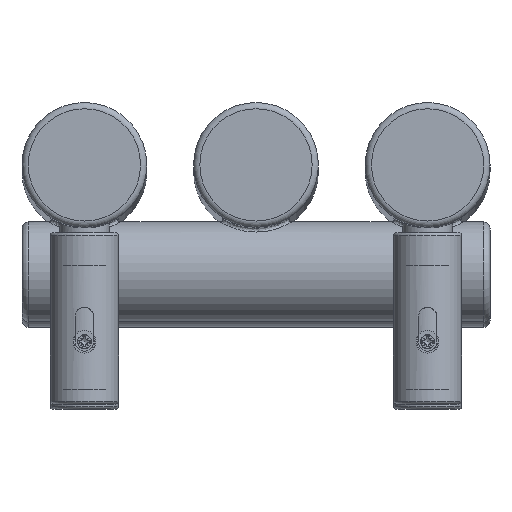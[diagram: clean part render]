
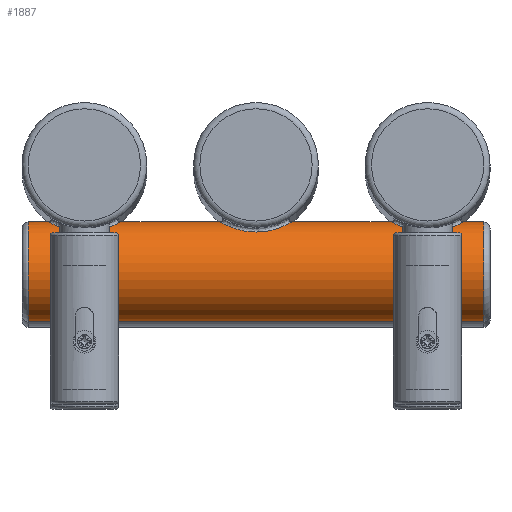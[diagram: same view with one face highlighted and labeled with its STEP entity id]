
A CAD part, top view. The second image highlights one B-rep face of the part: STEP entity #1887.
In plain terms, the highlighted cylindrical face has radius 16 mm (diameter 32 mm), a full revolution.
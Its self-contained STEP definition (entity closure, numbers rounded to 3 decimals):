
#163=FACE_BOUND('',#495,.T.);
#164=FACE_BOUND('',#496,.T.);
#165=FACE_BOUND('',#497,.T.);
#184=LINE('',#3864,#256);
#256=VECTOR('',#2366,16.);
#328=CYLINDRICAL_SURFACE('',#2066,16.);
#361=FACE_OUTER_BOUND('',#494,.T.);
#494=EDGE_LOOP('',(#1345,#1346,#1347,#1348));
#495=EDGE_LOOP('',(#1349));
#496=EDGE_LOOP('',(#1350));
#497=EDGE_LOOP('',(#1351));
#636=B_SPLINE_CURVE_WITH_KNOTS('',3,(#3841,#3842,#3843,#3844,#3845,#3846,
#3847,#3848,#3849,#3850,#3851,#3852,#3853,#3854,#3855,#3856,#3857,#3858,
#3859),.UNSPECIFIED.,.T.,.F.,(4,1,1,1,1,1,1,1,1,1,1,1,1,1,1,1,4),(0.,0.367,
0.733,1.1,1.466,1.711,1.955,
2.199,2.444,2.933,3.177,3.421,
3.666,3.91,4.399,4.765,5.132),
 .UNSPECIFIED.);
#637=B_SPLINE_CURVE_WITH_KNOTS('',3,(#3867,#3868,#3869,#3870,#3871,#3872,
#3873,#3874,#3875,#3876,#3877,#3878,#3879,#3880,#3881,#3882,#3883,#3884,
#3885,#3886,#3887),.UNSPECIFIED.,.T.,.F.,(4,1,1,1,1,1,1,1,1,1,1,1,1,1,1,
1,1,1,4),(0.,0.367,0.733,0.916,1.1,
1.466,1.711,1.955,2.199,2.444,
2.688,2.933,3.177,3.421,3.666,
3.91,4.399,4.765,5.132),
 .UNSPECIFIED.);
#638=B_SPLINE_CURVE_WITH_KNOTS('',3,(#3889,#3890,#3891,#3892,#3893,#3894,
#3895,#3896,#3897,#3898,#3899,#3900,#3901,#3902,#3903,#3904,#3905,#3906,
#3907,#3908,#3909),.UNSPECIFIED.,.T.,.F.,(4,1,1,1,1,1,1,1,1,1,1,1,1,1,1,
1,1,1,4),(0.,0.367,0.733,0.916,1.1,
1.466,1.711,1.955,2.199,2.444,
2.688,2.933,3.177,3.421,3.666,
3.91,4.399,4.765,5.132),
 .UNSPECIFIED.);
#687=CIRCLE('',#2067,16.);
#688=CIRCLE('',#2068,16.);
#837=VERTEX_POINT('',#3839);
#838=VERTEX_POINT('',#3861);
#839=VERTEX_POINT('',#3863);
#840=VERTEX_POINT('',#3866);
#841=VERTEX_POINT('',#3888);
#1041=EDGE_CURVE('',#837,#837,#636,.T.);
#1042=EDGE_CURVE('',#838,#838,#687,.T.);
#1043=EDGE_CURVE('',#838,#839,#184,.T.);
#1044=EDGE_CURVE('',#839,#839,#688,.T.);
#1045=EDGE_CURVE('',#840,#840,#637,.T.);
#1046=EDGE_CURVE('',#841,#841,#638,.T.);
#1345=ORIENTED_EDGE('',*,*,#1042,.F.);
#1346=ORIENTED_EDGE('',*,*,#1043,.T.);
#1347=ORIENTED_EDGE('',*,*,#1044,.F.);
#1348=ORIENTED_EDGE('',*,*,#1043,.F.);
#1349=ORIENTED_EDGE('',*,*,#1045,.F.);
#1350=ORIENTED_EDGE('',*,*,#1046,.F.);
#1351=ORIENTED_EDGE('',*,*,#1041,.F.);
#1887=ADVANCED_FACE('',(#361,#163,#164,#165),#328,.T.);
#2066=AXIS2_PLACEMENT_3D('',#3860,#2362,#2363);
#2067=AXIS2_PLACEMENT_3D('',#3862,#2364,#2365);
#2068=AXIS2_PLACEMENT_3D('',#3865,#2367,#2368);
#2362=DIRECTION('center_axis',(-1.,0.,0.));
#2363=DIRECTION('ref_axis',(0.,0.,1.));
#2364=DIRECTION('center_axis',(-1.,0.,0.));
#2365=DIRECTION('ref_axis',(0.,0.,1.));
#2366=DIRECTION('',(1.,0.,0.));
#2367=DIRECTION('center_axis',(1.,0.,0.));
#2368=DIRECTION('ref_axis',(0.,0.,1.));
#3839=CARTESIAN_POINT('',(-110.,-21.257,1054.676));
#3841=CARTESIAN_POINT('Ctrl Pts',(-110.,-21.257,1054.676));
#3842=CARTESIAN_POINT('Ctrl Pts',(-108.333,-21.257,1054.676));
#3843=CARTESIAN_POINT('Ctrl Pts',(-104.996,-20.861,1054.183));
#3844=CARTESIAN_POINT('Ctrl Pts',(-100.824,-19.321,1051.735));
#3845=CARTESIAN_POINT('Ctrl Pts',(-98.535,-17.944,1047.489));
#3846=CARTESIAN_POINT('Ctrl Pts',(-98.541,-17.949,1043.065));
#3847=CARTESIAN_POINT('Ctrl Pts',(-100.014,-18.832,1039.661));
#3848=CARTESIAN_POINT('Ctrl Pts',(-102.203,-19.862,1037.415));
#3849=CARTESIAN_POINT('Ctrl Pts',(-105.073,-20.765,1035.975));
#3850=CARTESIAN_POINT('Ctrl Pts',(-109.399,-21.459,1035.075));
#3851=CARTESIAN_POINT('Ctrl Pts',(-113.971,-21.078,1035.504));
#3852=CARTESIAN_POINT('Ctrl Pts',(-117.798,-19.859,1037.414));
#3853=CARTESIAN_POINT('Ctrl Pts',(-119.989,-18.831,1039.665));
#3854=CARTESIAN_POINT('Ctrl Pts',(-121.247,-18.084,1042.578));
#3855=CARTESIAN_POINT('Ctrl Pts',(-121.602,-17.836,1046.907));
#3856=CARTESIAN_POINT('Ctrl Pts',(-119.645,-19.134,1051.468));
#3857=CARTESIAN_POINT('Ctrl Pts',(-114.999,-20.872,1054.179));
#3858=CARTESIAN_POINT('Ctrl Pts',(-111.667,-21.257,1054.676));
#3859=CARTESIAN_POINT('Ctrl Pts',(-110.,-21.257,1054.676));
#3860=CARTESIAN_POINT('Origin',(20.,-34.,1045.));
#3861=CARTESIAN_POINT('',(-128.,-34.,1029.));
#3862=CARTESIAN_POINT('Origin',(-128.,-34.,1045.));
#3863=CARTESIAN_POINT('',(18.,-34.,1029.));
#3864=CARTESIAN_POINT('',(20.,-34.,1029.));
#3865=CARTESIAN_POINT('Origin',(18.,-34.,1045.));
#3866=CARTESIAN_POINT('',(-55.,-21.257,1054.676));
#3867=CARTESIAN_POINT('Ctrl Pts',(-55.,-21.257,1054.676));
#3868=CARTESIAN_POINT('Ctrl Pts',(-53.333,-21.257,1054.676));
#3869=CARTESIAN_POINT('Ctrl Pts',(-49.992,-20.858,1054.186));
#3870=CARTESIAN_POINT('Ctrl Pts',(-46.526,-19.582,1052.137));
#3871=CARTESIAN_POINT('Ctrl Pts',(-44.675,-18.63,1049.615));
#3872=CARTESIAN_POINT('Ctrl Pts',(-43.539,-17.949,1046.659));
#3873=CARTESIAN_POINT('Ctrl Pts',(-43.538,-17.947,1043.066));
#3874=CARTESIAN_POINT('Ctrl Pts',(-45.013,-18.833,1039.662));
#3875=CARTESIAN_POINT('Ctrl Pts',(-47.203,-19.86,1037.415));
#3876=CARTESIAN_POINT('Ctrl Pts',(-50.072,-20.768,1035.978));
#3877=CARTESIAN_POINT('Ctrl Pts',(-53.318,-21.278,1035.296));
#3878=CARTESIAN_POINT('Ctrl Pts',(-56.682,-21.279,1035.296));
#3879=CARTESIAN_POINT('Ctrl Pts',(-59.929,-20.768,1035.978));
#3880=CARTESIAN_POINT('Ctrl Pts',(-62.797,-19.862,1037.415));
#3881=CARTESIAN_POINT('Ctrl Pts',(-64.989,-18.829,1039.664));
#3882=CARTESIAN_POINT('Ctrl Pts',(-66.247,-18.084,1042.578));
#3883=CARTESIAN_POINT('Ctrl Pts',(-66.602,-17.835,1046.907));
#3884=CARTESIAN_POINT('Ctrl Pts',(-64.645,-19.134,1051.468));
#3885=CARTESIAN_POINT('Ctrl Pts',(-59.999,-20.872,1054.179));
#3886=CARTESIAN_POINT('Ctrl Pts',(-56.667,-21.257,1054.676));
#3887=CARTESIAN_POINT('Ctrl Pts',(-55.,-21.257,1054.676));
#3888=CARTESIAN_POINT('',(0.,-21.257,1054.676));
#3889=CARTESIAN_POINT('Ctrl Pts',(0.,-21.257,
1054.676));
#3890=CARTESIAN_POINT('Ctrl Pts',(1.667,-21.257,1054.676));
#3891=CARTESIAN_POINT('Ctrl Pts',(5.008,-20.858,1054.186));
#3892=CARTESIAN_POINT('Ctrl Pts',(8.474,-19.582,1052.137));
#3893=CARTESIAN_POINT('Ctrl Pts',(10.325,-18.63,1049.615));
#3894=CARTESIAN_POINT('Ctrl Pts',(11.461,-17.949,1046.659));
#3895=CARTESIAN_POINT('Ctrl Pts',(11.462,-17.947,1043.066));
#3896=CARTESIAN_POINT('Ctrl Pts',(9.987,-18.833,1039.662));
#3897=CARTESIAN_POINT('Ctrl Pts',(7.797,-19.86,1037.415));
#3898=CARTESIAN_POINT('Ctrl Pts',(4.928,-20.768,1035.978));
#3899=CARTESIAN_POINT('Ctrl Pts',(1.682,-21.278,1035.296));
#3900=CARTESIAN_POINT('Ctrl Pts',(-1.682,-21.279,1035.296));
#3901=CARTESIAN_POINT('Ctrl Pts',(-4.929,-20.768,1035.978));
#3902=CARTESIAN_POINT('Ctrl Pts',(-7.797,-19.862,1037.415));
#3903=CARTESIAN_POINT('Ctrl Pts',(-9.989,-18.829,1039.664));
#3904=CARTESIAN_POINT('Ctrl Pts',(-11.247,-18.084,1042.578));
#3905=CARTESIAN_POINT('Ctrl Pts',(-11.602,-17.835,1046.907));
#3906=CARTESIAN_POINT('Ctrl Pts',(-9.645,-19.134,1051.468));
#3907=CARTESIAN_POINT('Ctrl Pts',(-4.999,-20.872,1054.179));
#3908=CARTESIAN_POINT('Ctrl Pts',(-1.667,-21.257,1054.676));
#3909=CARTESIAN_POINT('Ctrl Pts',(0.,-21.257,
1054.676));
